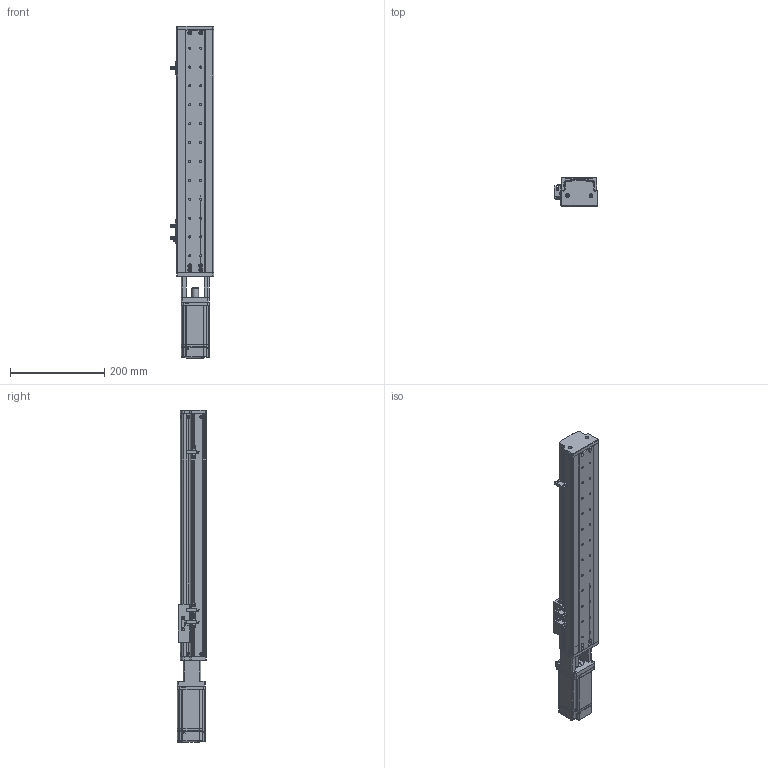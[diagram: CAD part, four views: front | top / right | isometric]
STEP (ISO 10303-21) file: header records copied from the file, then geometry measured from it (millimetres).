
FILE_DESCRIPTION (( 'STEP AP214' ), '1' );
FILE_NAME ('KSD75S-S360-MT-CM.STEP', '2019-10-18T07:31:35', ( '微软用户' ), ( '微软中国' ), 'SwSTEP 2.0', 'SolidWorks 2014', '' );
FILE_SCHEMA (( 'AUTOMOTIVE_DESIGN' ));
Length unit declared in the file: millimetre
Products named in the file (12): KSD75S-S360-MT-CM; MHMD042G1CA_2_03; 覜茼え100遵圉猾敕; U倰嫖萇EEㄜSX672; 綴傷啣 ; 100遵鎮湛假蚾啣1 ; ヶ傷啣; 75裔啣-360俴最; 75遵耀郪耜啣-360俴最; 75遵賑雄釱; MGW15H賑寢360俴最 ; 360俴最
Assembly tree (14 placements, depth 3):
  KSD75S-S360-MT-CM
    MGW15H賑寢360俴最 
      360俴最
    75遵賑雄釱
    75遵耀郪耜啣-360俴最  x2
    75裔啣-360俴最
    ヶ傷啣
    100遵鎮湛假蚾啣1 
    綴傷啣 
    U倰嫖萇EEㄜSX672  x3
    覜茼え100遵圉猾敕
    MHMD042G1CA_2_03
Bounding box: 91.7 x 63 x 703.5 mm (x, y, z)
Volume: 730064.9 mm3; surface area: 456029.8 mm2
Topology: 12 solids, 13 shells, 1396 faces, 3957 edges, 2579 vertices
Faces by surface type: cylinder 652, plane 597, cone 129, bspline 18
Entity records: 44896 total; most frequent: CARTESIAN_POINT 8547, DIRECTION 6613, ORIENTED_EDGE 6194, EDGE_CURVE 3168, AXIS2_PLACEMENT_3D 2424, VERTEX_POINT 2097, LINE 1765, VECTOR 1765
